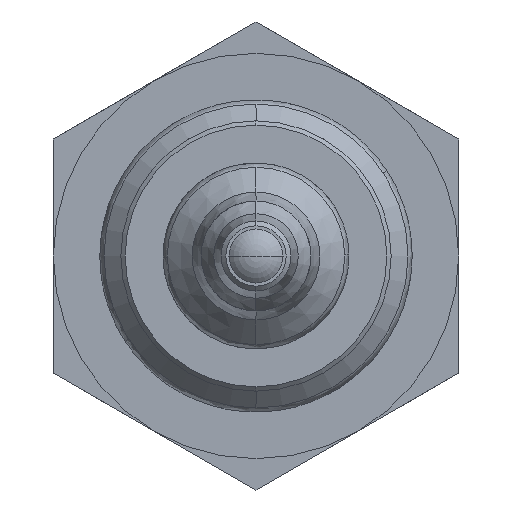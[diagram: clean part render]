
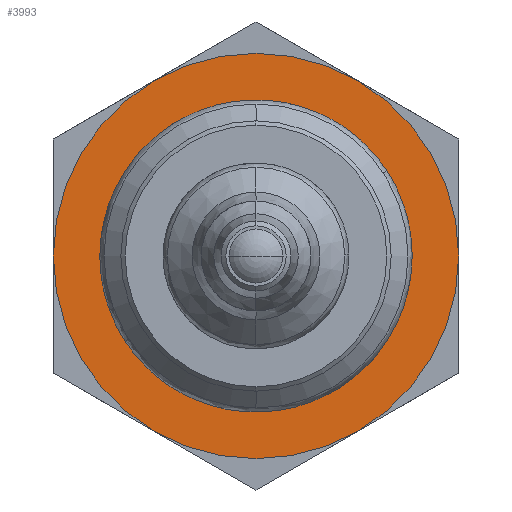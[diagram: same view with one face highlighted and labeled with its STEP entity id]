
A CAD part, front view. The second image highlights one B-rep face of the part: STEP entity #3993.
In plain terms, the highlighted planar face has unit normal (0, -1, 0).
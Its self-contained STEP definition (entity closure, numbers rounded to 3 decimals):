
#557 = FACE_OUTER_BOUND ( 'NONE', #4946, .T. ) ;
#561 = FACE_BOUND ( 'NONE', #4988, .T. ) ;
#754 = AXIS2_PLACEMENT_3D ( 'NONE', #4387, #4388, #4389 ) ;
#755 = AXIS2_PLACEMENT_3D ( 'NONE', #4391, #4392, #4393 ) ;
#756 = AXIS2_PLACEMENT_3D ( 'NONE', #4396, #4397, #4398 ) ;
#1084 = AXIS2_PLACEMENT_3D ( 'NONE', #9960, #9961, #9962 ) ;
#2079 = EDGE_CURVE ( 'NONE', #10250, #10289, #3460, .T. ) ;
#3460 = CIRCLE ( 'NONE', #15096, 12. ) ;
#3993 = ADVANCED_FACE ( 'NONE', ( #557, #561 ), #9953, .F. ) ;
#4387 = CARTESIAN_POINT ( 'NONE',  ( 0., 23.001, 0. ) ) ;
#4388 = DIRECTION ( 'NONE',  ( 0., 1., 0. ) ) ;
#4389 = DIRECTION ( 'NONE',  ( 0., 0., 1. ) ) ;
#4391 = CARTESIAN_POINT ( 'NONE',  ( 0., 23.001, 0. ) ) ;
#4392 = DIRECTION ( 'NONE',  ( 0., 1., 0. ) ) ;
#4393 = DIRECTION ( 'NONE',  ( 0., 0., 1. ) ) ;
#4396 = CARTESIAN_POINT ( 'NONE',  ( 0., 23.001, 0. ) ) ;
#4397 = DIRECTION ( 'NONE',  ( 0., 1., 0. ) ) ;
#4398 = DIRECTION ( 'NONE',  ( 0., 0., 1. ) ) ;
#4946 = EDGE_LOOP ( 'NONE', ( #15468, #15469 ) ) ;
#4988 = EDGE_LOOP ( 'NONE', ( #15470, #15471 ) ) ;
#6061 = VERTEX_POINT ( 'NONE', #12813 ) ;
#7690 = CARTESIAN_POINT ( 'NONE',  ( 0., 23.001, 8.25 ) ) ;
#7815 = CARTESIAN_POINT ( 'NONE',  ( 0., 23.001, 12. ) ) ;
#7852 = CARTESIAN_POINT ( 'NONE',  ( 0., 23.001, -12. ) ) ;
#8897 = VERTEX_POINT ( 'NONE', #7690 ) ;
#9953 = PLANE ( 'NONE',  #1084 ) ;
#9960 = CARTESIAN_POINT ( 'NONE',  ( -4.105, 23.001, 0. ) ) ;
#9961 = DIRECTION ( 'NONE',  ( 0., 1., 0. ) ) ;
#9962 = DIRECTION ( 'NONE',  ( 0., 0., 1. ) ) ;
#10250 = VERTEX_POINT ( 'NONE', #7815 ) ;
#10289 = VERTEX_POINT ( 'NONE', #7852 ) ;
#11088 = CARTESIAN_POINT ( 'NONE',  ( 0., 23.001, 0. ) ) ;
#11089 = DIRECTION ( 'NONE',  ( 0., 1., 0. ) ) ;
#11090 = DIRECTION ( 'NONE',  ( 0., 0., 1. ) ) ;
#12813 = CARTESIAN_POINT ( 'NONE',  ( 0., 23.001, -8.25 ) ) ;
#14559 = CIRCLE ( 'NONE', #756, 8.25 ) ;
#14562 = CIRCLE ( 'NONE', #754, 12. ) ;
#14564 = CIRCLE ( 'NONE', #755, 8.25 ) ;
#15022 = EDGE_CURVE ( 'NONE', #10289, #10250, #14562, .T. ) ;
#15023 = EDGE_CURVE ( 'NONE', #8897, #6061, #14564, .T. ) ;
#15024 = EDGE_CURVE ( 'NONE', #6061, #8897, #14559, .T. ) ;
#15096 = AXIS2_PLACEMENT_3D ( 'NONE', #11088, #11089, #11090 ) ;
#15468 = ORIENTED_EDGE ( 'NONE', *, *, #2079, .F. ) ;
#15469 = ORIENTED_EDGE ( 'NONE', *, *, #15022, .F. ) ;
#15470 = ORIENTED_EDGE ( 'NONE', *, *, #15023, .T. ) ;
#15471 = ORIENTED_EDGE ( 'NONE', *, *, #15024, .T. ) ;
